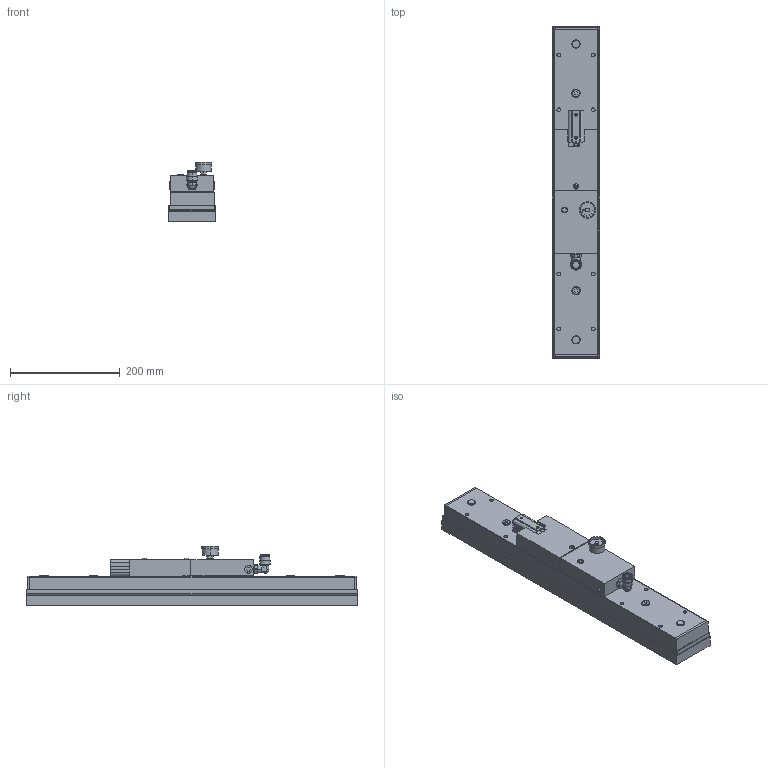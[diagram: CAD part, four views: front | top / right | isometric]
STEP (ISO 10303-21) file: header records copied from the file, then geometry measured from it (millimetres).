
FILE_DESCRIPTION (( 'STEP AP214' ), '1' );
FILE_NAME ('9671-120-012.STEP', '2012-09-12T10:49:23', ( 'cad' ), ( 'Microsoft' ), 'SwSTEP 2.0', 'SolidWorks 2012', '' );
FILE_SCHEMA (( 'AUTOMOTIVE_DESIGN' ));
Length unit declared in the file: millimetre
Products named in the file (1): 9671-120-012
Bounding box: 86 x 606 x 109.5 mm (x, y, z)
Volume: 3018476.4 mm3; surface area: 315496.6 mm2
Topology: 1 solids, 1 shells, 652 faces, 1502 edges, 955 vertices
Faces by surface type: plane 355, cylinder 242, cone 42, bspline 8, sphere 5
Entity records: 24026 total; most frequent: CARTESIAN_POINT 3618, DIRECTION 3273, ORIENTED_EDGE 3000, EDGE_CURVE 1500, AXIS2_PLACEMENT_3D 1194, VERTEX_POINT 955, LINE 885, VECTOR 885
